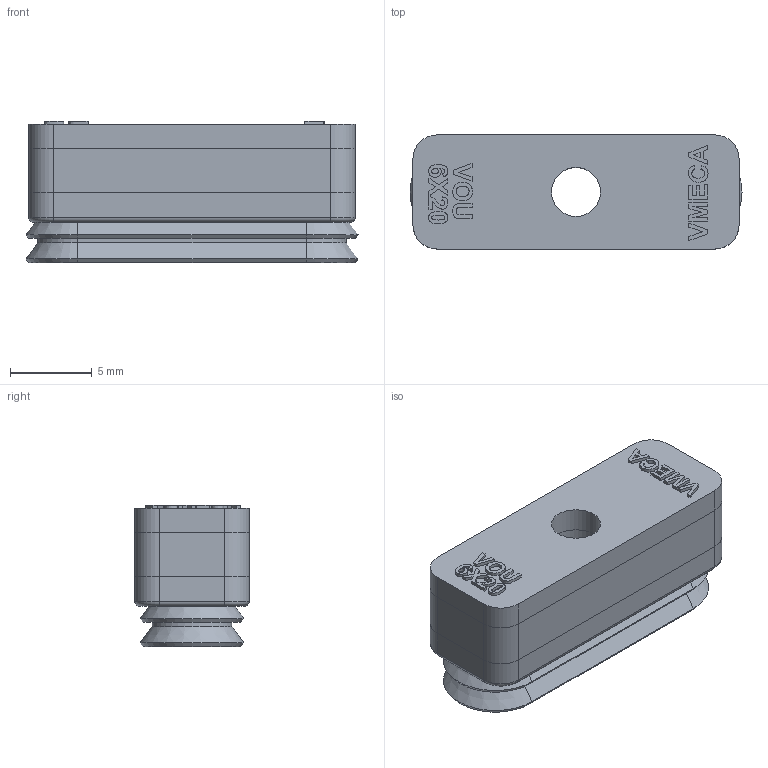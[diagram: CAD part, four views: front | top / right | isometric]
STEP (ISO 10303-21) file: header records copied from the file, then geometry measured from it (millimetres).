
FILE_DESCRIPTION( ( 'Unknown' ), '1' );
FILE_NAME( 'C:/Documents and Settings/owner/官帕 拳搁/MISUMI/PAD/VOU/VOU 6X20-N.stp', 'Unknown', ( 'Unknown' ), ( 'Unknown' ), 'XStep 1.0', 'Unknown', ' ' );
FILE_SCHEMA( ( 'automotive_design' ) );
Length unit declared in the file: millimetre
Products named in the file (2): Assem1; 6X20_STP
Bounding box: 20.35 x 7 x 8.7 mm (x, y, z)
Surface area: 1432.9 mm2
Topology: 2 solids, 2 shells, 264 faces, 646 edges, 420 vertices
Faces by surface type: plane 200, extrusion 26, cylinder 22, cone 8, torus 8
Full cylindrical faces by diameter (mm): 3 x2
Entity records: 5692 total; most frequent: CARTESIAN_POINT 1531, ORIENTED_EDGE 634, DIRECTION 576, EDGE_CURVE 317, VECTOR 274, LINE 261, VERTEX_POINT 210, EDGE_LOOP 157
